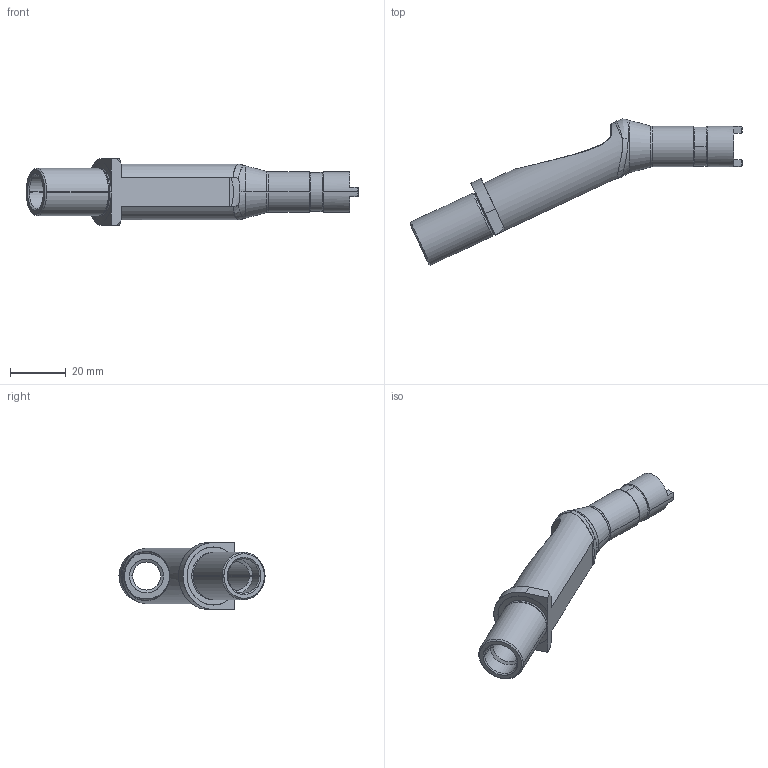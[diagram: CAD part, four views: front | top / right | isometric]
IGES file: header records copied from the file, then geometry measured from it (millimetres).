
Start section: SolidWorks IGES file using analytic representation for surfaces
Global section: file name: C:\Users\e.bondaruk\Desktop\縺 嚦闉鍙酀50.20.1050-00.02.IGS; native system: SolidWorks 2022; preprocessor: SolidWorks 2022; author: e.bondaruk; date: 230210.123439; units: millimetre
Bounding box: 119.09 x 52.38 x 24 mm (x, y, z)
Surface area: 10396 mm2 (no closed solid volume)
Topology: 0 solids, 0 shells, 81 faces, 937 edges, 937 vertices
Faces by surface type: revolution 41, bspline 40
